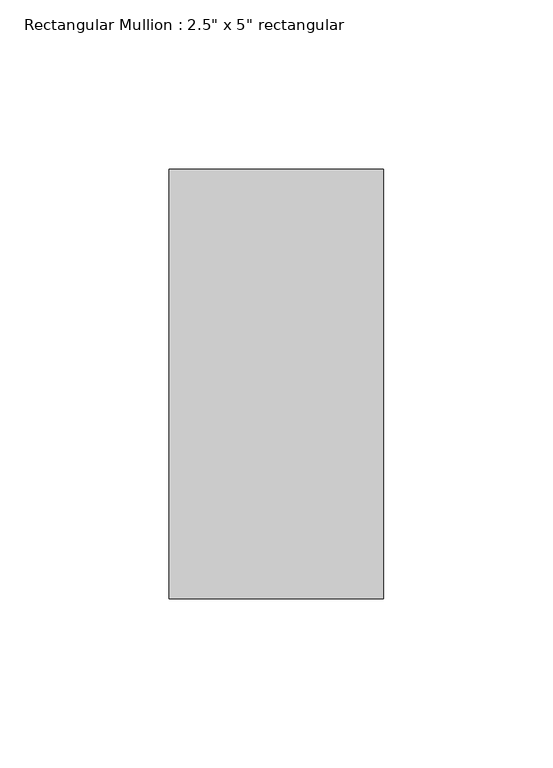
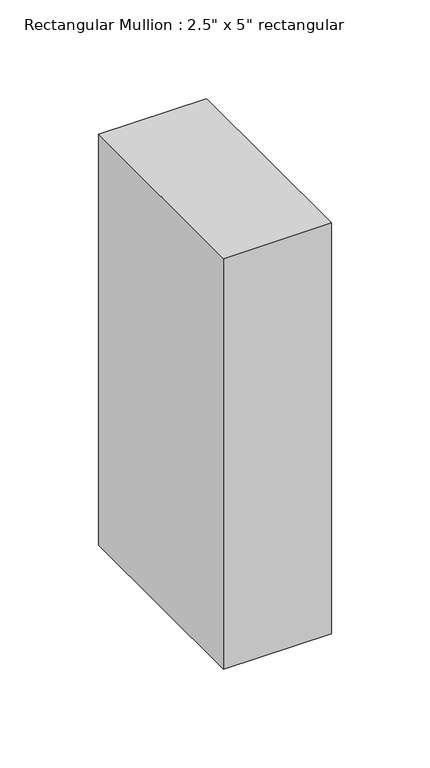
"""IFC4 building model written with IfcOpenShell, lengths in millimetres: member geometry."""

from ifc_helpers import new_model, si_unit, frame, origin, place, context, project, spatial, polyline, outline, extrude, source, transform, mapped, element, save


def member_d292a8f8(model_context):
    return source(origin(), model_context, "Body", "SweptSolid", [
        extrude(outline(polyline([(31.75, 63.5), (31.75, -63.5), (-31.75, -63.5), (-31.75, 63.5), (31.75, 63.5)])), frame((0.0, 0.0, -254.5181287), z_axis=(0.0, 0.0, 1.0), x_axis=(1.0, 0.0, 0.0)), (0.0, 0.0, 1.0), 254.5181287),
    ])


if __name__ == "__main__":
    model = new_model("IFC4")
    model_context = context("Model", 3, world=origin())
    ifc_project = project(units=[si_unit("LENGTHUNIT", "METRE", prefix="MILLI")], contexts=[model_context])
    site = spatial("IfcSite", under=ifc_project)
    building = spatial("IfcBuilding", under=site)
    placement = place(None, origin())
    member_shape = member_d292a8f8(model_context)
    element("IfcMember", 1, ObjectType="Rectangular Mullion : 2.5\" x 5\" rectangular", at=placement, inside=building, context=model_context, shape_type="MappedRepresentation", body=[
        mapped(member_shape, transform((0.0, 0.0, 0.0), x_axis=(1.0, 0.0, 0.0), y_axis=(0.0, 1.0, 0.0), z_axis=(0.0, 0.0, 1.0))),
    ])
    save(model, "model.ifc")
